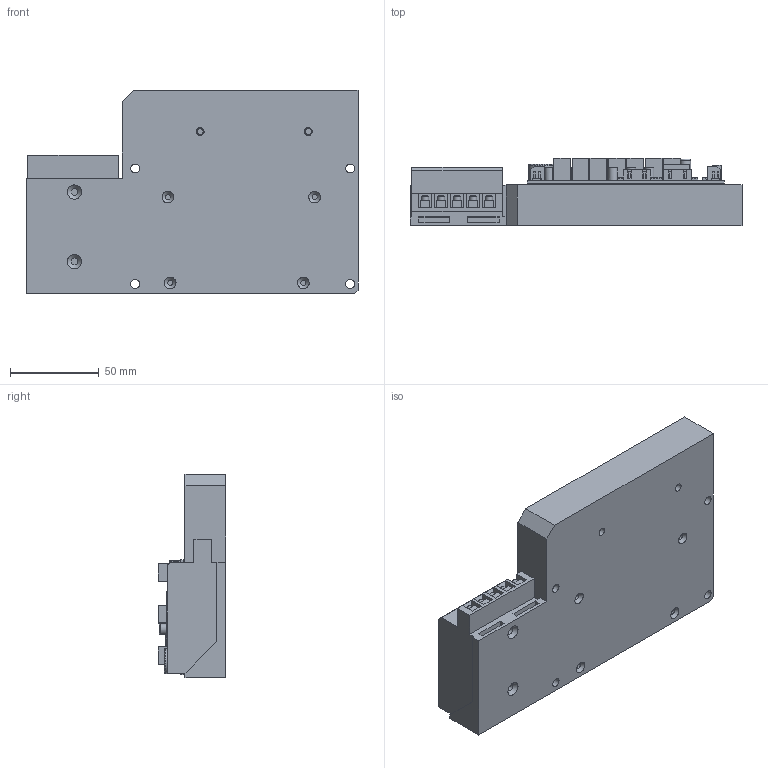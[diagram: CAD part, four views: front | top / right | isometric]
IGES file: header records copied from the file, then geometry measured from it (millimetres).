
Global section: file name: No Iges File Name specified; native system: Autodesk Inventor 2013; preprocessor: AutoDesk Inventor Iges Exporter R2013; author: admin; date: 20230315.114227; units: millimetre
Bounding box: 186.78 x 38.1 x 114.29 mm (x, y, z)
Volume: 252952.6 mm3; surface area: 151077.1 mm2
Topology: 1 solids, 4 shells, 1806 faces, 4214 edges, 2798 vertices
Faces by surface type: bspline 1806
